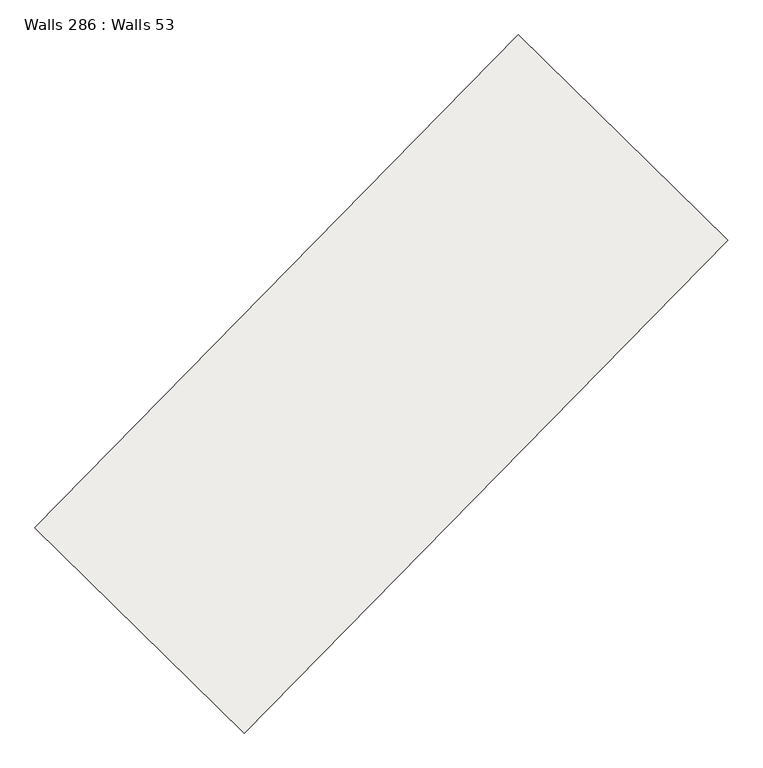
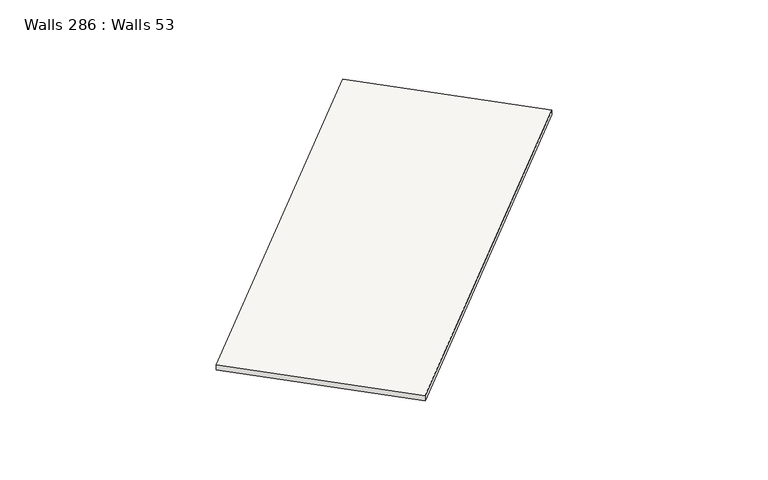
"""IFC4 building model written with IfcOpenShell, lengths in millimetres: slab geometry, Walls 286 : Walls 53."""

from ifc_helpers import new_model, si_unit, frame, origin, place, context, project, spatial, polyline, outline, extrude, source, transform, mapped, element, save


def walls_286_walls_53_c293caae(model_context):
    return source(origin(), model_context, "Body", "SweptSolid", [
        extrude(outline(polyline([(-50.0, 0.0), (50.0, 0.0), (-40.0, -8699.9999995), (-140.0, -8699.9999995), (-50.0, 0.0)])), frame((-60886.2679061, -221389.1956247, 637160.0), z_axis=(-0.7137361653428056, 0.7004146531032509, 0.0), x_axis=(0.0, 0.0, 1.0)), (0.0, 0.0, 1.0), 3699.999995),
    ])


if __name__ == "__main__":
    model = new_model("IFC4")
    model_context = context("Model", 3, world=origin())
    ifc_project = project(units=[si_unit("LENGTHUNIT", "METRE", prefix="MILLI")], contexts=[model_context])
    site = spatial("IfcSite", under=ifc_project)
    building = spatial("IfcBuilding", under=site)
    placement = place(None, origin())
    walls_286_walls_53_shape = walls_286_walls_53_c293caae(model_context)
    element("IfcSlab", 1, ObjectType="Walls 286 : Walls 53", at=placement, inside=building, context=model_context, shape_type="MappedRepresentation", body=[
        mapped(walls_286_walls_53_shape, transform((0.0, 0.0, 0.0), x_axis=(1.0, 0.0, 0.0), y_axis=(0.0, 1.0, 0.0), z_axis=(0.0, 0.0, 1.0))),
    ])
    save(model, "model.ifc")
